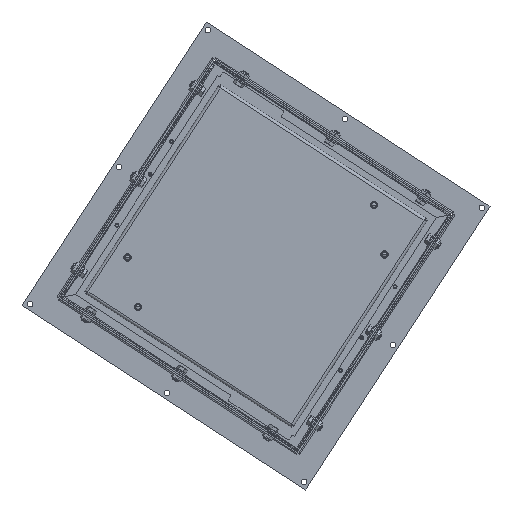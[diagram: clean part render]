
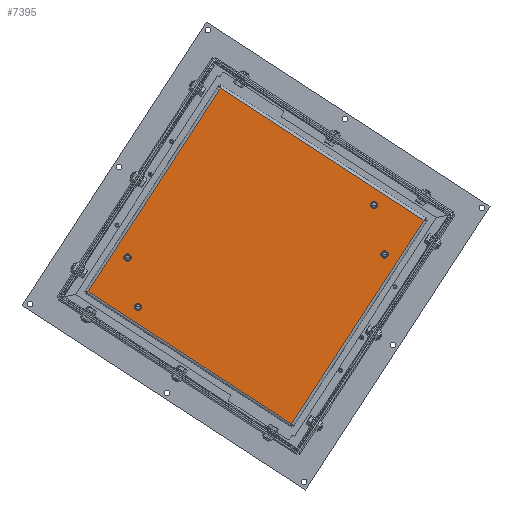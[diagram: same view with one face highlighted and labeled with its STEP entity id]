
A CAD part, front view. The second image highlights one B-rep face of the part: STEP entity #7395.
In plain terms, the highlighted planar face has unit normal (0, -1, 0).
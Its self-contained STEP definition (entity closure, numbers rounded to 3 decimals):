
#1909 = VERTEX_POINT ( 'NONE', #26143 ) ;
#2263 = LINE ( 'NONE', #30443, #35416 ) ;
#2410 = VECTOR ( 'NONE', #32999, 1000. ) ;
#2593 = EDGE_LOOP ( 'NONE', ( #44563, #35334 ) ) ;
#3013 = CARTESIAN_POINT ( 'NONE',  ( -177.773, -62.5, 2.993 ) ) ;
#3660 = AXIS2_PLACEMENT_3D ( 'NONE', #16508, #57089, #62386 ) ;
#4040 = LINE ( 'NONE', #43193, #2410 ) ;
#5000 = DIRECTION ( 'NONE',  ( 0., 1., 0. ) ) ;
#5671 = CARTESIAN_POINT ( 'NONE',  ( -177.773, -62.5, -2.007 ) ) ;
#6626 = AXIS2_PLACEMENT_3D ( 'NONE', #10433, #5000, #51387 ) ;
#6703 = VERTEX_POINT ( 'NONE', #10852 ) ;
#7395 = ADVANCED_FACE ( 'NONE', ( #65671, #37952, #9675, #63245, #24187 ), #24492, .T. ) ;
#7549 = EDGE_CURVE ( 'NONE', #36845, #6703, #50114, .T. ) ;
#8224 = EDGE_CURVE ( 'NONE', #22649, #42142, #58182, .T. ) ;
#8623 = VERTEX_POINT ( 'NONE', #36829 ) ;
#8674 = ORIENTED_EDGE ( 'NONE', *, *, #44896, .T. ) ;
#9135 = DIRECTION ( 'NONE',  ( 0.545, 0., 0.839 ) ) ;
#9554 = CIRCLE ( 'NONE', #46598, 5. ) ;
#9675 = FACE_OUTER_BOUND ( 'NONE', #56752, .T. ) ;
#9929 = ORIENTED_EDGE ( 'NONE', *, *, #8224, .T. ) ;
#10433 = CARTESIAN_POINT ( 'NONE',  ( -177.773, -62.5, -2.007 ) ) ;
#10852 = CARTESIAN_POINT ( 'NONE',  ( -49.397, -62.5, 232.396 ) ) ;
#12713 = DIRECTION ( 'NONE',  ( 0., 0., -1. ) ) ;
#13985 = ORIENTED_EDGE ( 'NONE', *, *, #39154, .T. ) ;
#14227 = ORIENTED_EDGE ( 'NONE', *, *, #7549, .T. ) ;
#15131 = CIRCLE ( 'NONE', #40548, 5. ) ;
#15248 = CIRCLE ( 'NONE', #31093, 5. ) ;
#16265 = DIRECTION ( 'NONE',  ( 0., 1., 0. ) ) ;
#16508 = CARTESIAN_POINT ( 'NONE',  ( -163.216, -62.5, -70.476 ) ) ;
#16931 = EDGE_CURVE ( 'NONE', #42142, #22649, #41824, .T. ) ;
#17350 = CIRCLE ( 'NONE', #6626, 5. ) ;
#18804 = AXIS2_PLACEMENT_3D ( 'NONE', #24939, #40343, #9135 ) ;
#19566 = EDGE_LOOP ( 'NONE', ( #9929, #31073 ) ) ;
#19576 = CARTESIAN_POINT ( 'NONE',  ( 163.216, -62.5, 65.476 ) ) ;
#20188 = CARTESIAN_POINT ( 'NONE',  ( -48.347, -62.5, 234.014 ) ) ;
#21571 = CARTESIAN_POINT ( 'NONE',  ( -163.216, -62.5, -70.476 ) ) ;
#22189 = CARTESIAN_POINT ( 'NONE',  ( -232.396, -62.5, -49.397 ) ) ;
#22649 = VERTEX_POINT ( 'NONE', #19576 ) ;
#23937 = ORIENTED_EDGE ( 'NONE', *, *, #28797, .T. ) ;
#24187 = FACE_BOUND ( 'NONE', #19566, .T. ) ;
#24492 = PLANE ( 'NONE',  #18804 ) ;
#24924 = DIRECTION ( 'NONE',  ( 0., 1., 0. ) ) ;
#24939 = CARTESIAN_POINT ( 'NONE',  ( 237.929, -62.5, 50.573 ) ) ;
#24985 = DIRECTION ( 'NONE',  ( 0., 0., -1. ) ) ;
#25395 = EDGE_LOOP ( 'NONE', ( #23937, #30031 ) ) ;
#26143 = CARTESIAN_POINT ( 'NONE',  ( -163.216, -62.5, -65.476 ) ) ;
#26449 = DIRECTION ( 'NONE',  ( 0., 0., -1. ) ) ;
#26487 = EDGE_LOOP ( 'NONE', ( #13985, #8674 ) ) ;
#27568 = DIRECTION ( 'NONE',  ( 0., 1., 0. ) ) ;
#28027 = DIRECTION ( 'NONE',  ( 0., 0., -1. ) ) ;
#28533 = EDGE_CURVE ( 'NONE', #48499, #40399, #31208, .T. ) ;
#28797 = EDGE_CURVE ( 'NONE', #60684, #38739, #17350, .T. ) ;
#29549 = DIRECTION ( 'NONE',  ( 0.545, 0., 0.839 ) ) ;
#30031 = ORIENTED_EDGE ( 'NONE', *, *, #54758, .T. ) ;
#30154 = LINE ( 'NONE', #20188, #46326 ) ;
#30443 = CARTESIAN_POINT ( 'NONE',  ( 48.347, -62.5, -234.014 ) ) ;
#30521 = AXIS2_PLACEMENT_3D ( 'NONE', #45515, #24924, #61717 ) ;
#31073 = ORIENTED_EDGE ( 'NONE', *, *, #16931, .T. ) ;
#31093 = AXIS2_PLACEMENT_3D ( 'NONE', #21571, #41716, #36503 ) ;
#31208 = CIRCLE ( 'NONE', #64468, 5. ) ;
#32999 = DIRECTION ( 'NONE',  ( 0.839, 0., -0.545 ) ) ;
#33733 = DIRECTION ( 'NONE',  ( 0., 1., 0. ) ) ;
#34383 = CARTESIAN_POINT ( 'NONE',  ( 177.773, -62.5, -2.993 ) ) ;
#34571 = EDGE_CURVE ( 'NONE', #43697, #55322, #4040, .T. ) ;
#34711 = CARTESIAN_POINT ( 'NONE',  ( 177.773, -62.5, 2.007 ) ) ;
#35334 = ORIENTED_EDGE ( 'NONE', *, *, #28533, .T. ) ;
#35416 = VECTOR ( 'NONE', #29549, 1000. ) ;
#35665 = AXIS2_PLACEMENT_3D ( 'NONE', #59106, #27568, #28027 ) ;
#36442 = EDGE_CURVE ( 'NONE', #55322, #36845, #2263, .T. ) ;
#36503 = DIRECTION ( 'NONE',  ( 0., 0., -1. ) ) ;
#36793 = CARTESIAN_POINT ( 'NONE',  ( 49.397, -62.5, -232.396 ) ) ;
#36829 = CARTESIAN_POINT ( 'NONE',  ( -163.216, -62.5, -75.476 ) ) ;
#36845 = VERTEX_POINT ( 'NONE', #52526 ) ;
#37670 = CARTESIAN_POINT ( 'NONE',  ( 177.773, -62.5, 7.007 ) ) ;
#37952 = FACE_BOUND ( 'NONE', #25395, .T. ) ;
#38739 = VERTEX_POINT ( 'NONE', #3013 ) ;
#39154 = EDGE_CURVE ( 'NONE', #8623, #1909, #50568, .T. ) ;
#39462 = ORIENTED_EDGE ( 'NONE', *, *, #34571, .T. ) ;
#40343 = DIRECTION ( 'NONE',  ( 0., -1., 0. ) ) ;
#40399 = VERTEX_POINT ( 'NONE', #34383 ) ;
#40548 = AXIS2_PLACEMENT_3D ( 'NONE', #34711, #66602, #24985 ) ;
#41716 = DIRECTION ( 'NONE',  ( 0., 1., 0. ) ) ;
#41739 = EDGE_CURVE ( 'NONE', #6703, #43697, #30154, .T. ) ;
#41824 = CIRCLE ( 'NONE', #35665, 5. ) ;
#42142 = VERTEX_POINT ( 'NONE', #66433 ) ;
#43193 = CARTESIAN_POINT ( 'NONE',  ( -234.014, -62.5, -48.347 ) ) ;
#43697 = VERTEX_POINT ( 'NONE', #22189 ) ;
#44563 = ORIENTED_EDGE ( 'NONE', *, *, #64001, .T. ) ;
#44896 = EDGE_CURVE ( 'NONE', #1909, #8623, #15248, .T. ) ;
#45515 = CARTESIAN_POINT ( 'NONE',  ( 163.216, -62.5, 70.476 ) ) ;
#45711 = ORIENTED_EDGE ( 'NONE', *, *, #36442, .T. ) ;
#46326 = VECTOR ( 'NONE', #61722, 1000. ) ;
#46598 = AXIS2_PLACEMENT_3D ( 'NONE', #5671, #16265, #26449 ) ;
#48499 = VERTEX_POINT ( 'NONE', #37670 ) ;
#49775 = ORIENTED_EDGE ( 'NONE', *, *, #41739, .T. ) ;
#50114 = LINE ( 'NONE', #56888, #51719 ) ;
#50568 = CIRCLE ( 'NONE', #3660, 5. ) ;
#51387 = DIRECTION ( 'NONE',  ( 0., 0., -1. ) ) ;
#51719 = VECTOR ( 'NONE', #62412, 1000. ) ;
#52526 = CARTESIAN_POINT ( 'NONE',  ( 232.396, -62.5, 49.397 ) ) ;
#54758 = EDGE_CURVE ( 'NONE', #38739, #60684, #9554, .T. ) ;
#55322 = VERTEX_POINT ( 'NONE', #36793 ) ;
#56752 = EDGE_LOOP ( 'NONE', ( #14227, #49775, #39462, #45711 ) ) ;
#56888 = CARTESIAN_POINT ( 'NONE',  ( 234.014, -62.5, 48.347 ) ) ;
#57089 = DIRECTION ( 'NONE',  ( 0., 1., 0. ) ) ;
#58182 = CIRCLE ( 'NONE', #30521, 5. ) ;
#59106 = CARTESIAN_POINT ( 'NONE',  ( 163.216, -62.5, 70.476 ) ) ;
#59391 = CARTESIAN_POINT ( 'NONE',  ( 177.773, -62.5, 2.007 ) ) ;
#60684 = VERTEX_POINT ( 'NONE', #64786 ) ;
#61717 = DIRECTION ( 'NONE',  ( 0., 0., -1. ) ) ;
#61722 = DIRECTION ( 'NONE',  ( -0.545, 0., -0.839 ) ) ;
#62386 = DIRECTION ( 'NONE',  ( 0., 0., -1. ) ) ;
#62412 = DIRECTION ( 'NONE',  ( -0.839, 0., 0.545 ) ) ;
#63245 = FACE_BOUND ( 'NONE', #26487, .T. ) ;
#64001 = EDGE_CURVE ( 'NONE', #40399, #48499, #15131, .T. ) ;
#64468 = AXIS2_PLACEMENT_3D ( 'NONE', #59391, #33733, #12713 ) ;
#64786 = CARTESIAN_POINT ( 'NONE',  ( -177.773, -62.5, -7.007 ) ) ;
#65671 = FACE_BOUND ( 'NONE', #2593, .T. ) ;
#66433 = CARTESIAN_POINT ( 'NONE',  ( 163.216, -62.5, 75.476 ) ) ;
#66602 = DIRECTION ( 'NONE',  ( 0., 1., 0. ) ) ;
